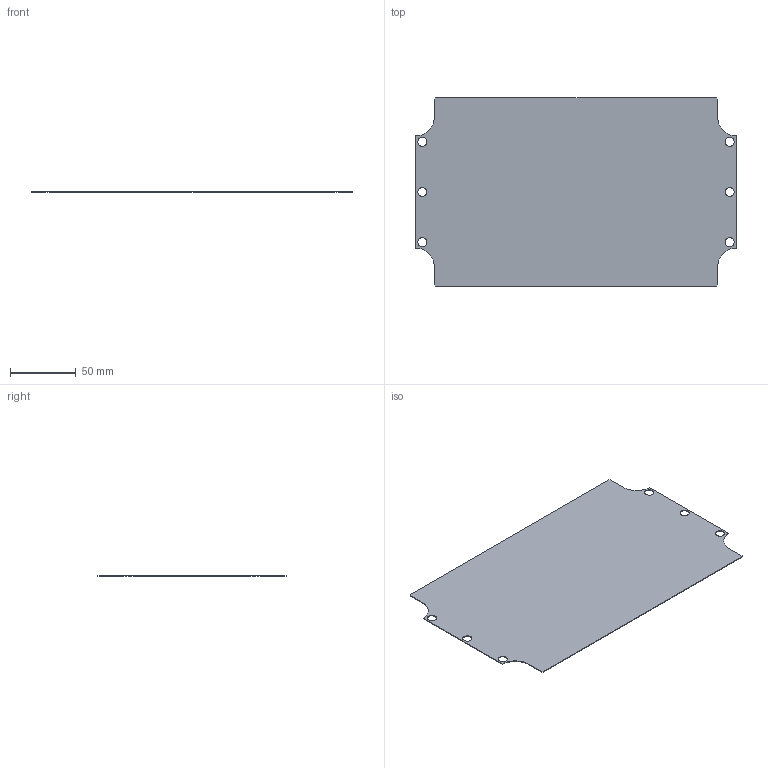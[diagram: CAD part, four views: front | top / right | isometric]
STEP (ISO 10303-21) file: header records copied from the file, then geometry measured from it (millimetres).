
FILE_DESCRIPTION((''),'2;1');
FILE_NAME('c:\temp\162PL.stp','2006-07-18T13:51:05',('kbond'),(''),'Autodesk Inventor 11','Autodesk Inventor 11','');
FILE_SCHEMA(('AUTOMOTIVE_DESIGN { 1 0 10303 214 1 1 1 1 }'));
Length unit declared in the file: millimetre
Products named in the file (1): 162PL
Bounding box: 243 x 143 x 0.5 mm (x, y, z)
Volume: 16530.2 mm3; surface area: 66559.4 mm2
Topology: 1 solids, 1 shells, 24 faces, 72 edges, 50 vertices
Faces by surface type: plane 14, bspline 6, cylinder 4
Entity records: 865 total; most frequent: CARTESIAN_POINT 231, ORIENTED_EDGE 120, DIRECTION 118, EDGE_CURVE 60, VERTEX_POINT 44, EDGE_LOOP 42, VECTOR 40, LINE 40
